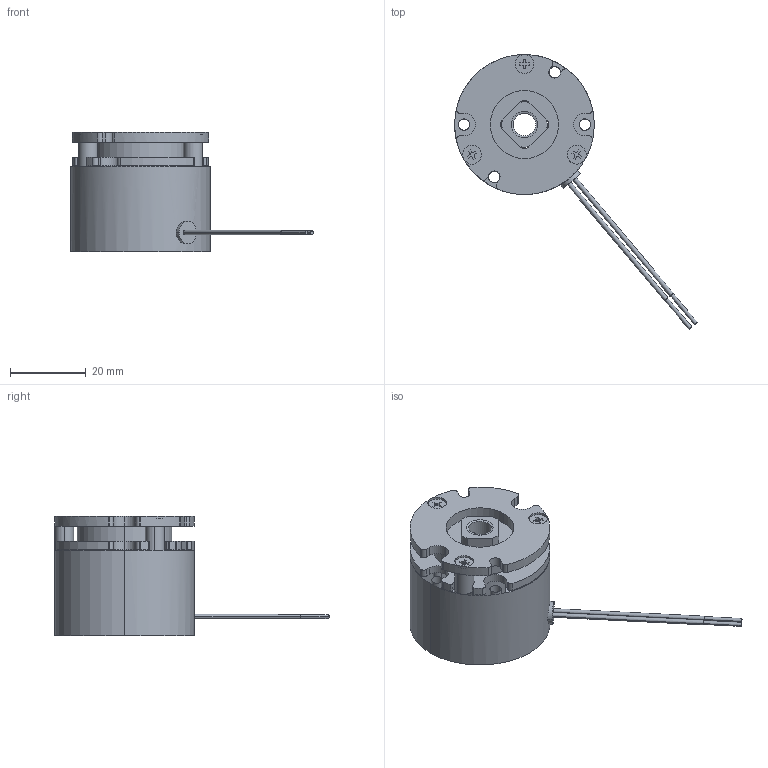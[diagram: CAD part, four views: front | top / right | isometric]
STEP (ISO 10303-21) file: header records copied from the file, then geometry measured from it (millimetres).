
FILE_DESCRIPTION (( 'STEP AP214' ), '1' );
FILE_NAME ('BXW-01-10H-6.STEP', '2017-07-18T05:00:13', ( 'MIKI' ), ( '' ), 'SwSTEP 2.0', 'SolidWorks 2012', '' );
FILE_SCHEMA (( 'AUTOMOTIVE_DESIGN' ));
Length unit declared in the file: millimetre
Products named in the file (1): BXW-01-10H-6
Bounding box: 64.28 x 72.67 x 31.5 mm (x, y, z)
Volume: 26159.5 mm3; surface area: 11961.9 mm2
Topology: 1 solids, 1 shells, 266 faces, 729 edges, 474 vertices
Faces by surface type: cylinder 135, plane 115, cone 16
Entity records: 11695 total; most frequent: CARTESIAN_POINT 1716, DIRECTION 1529, ORIENTED_EDGE 1450, EDGE_CURVE 725, AXIS2_PLACEMENT_3D 555, VERTEX_POINT 474, VECTOR 419, LINE 419
